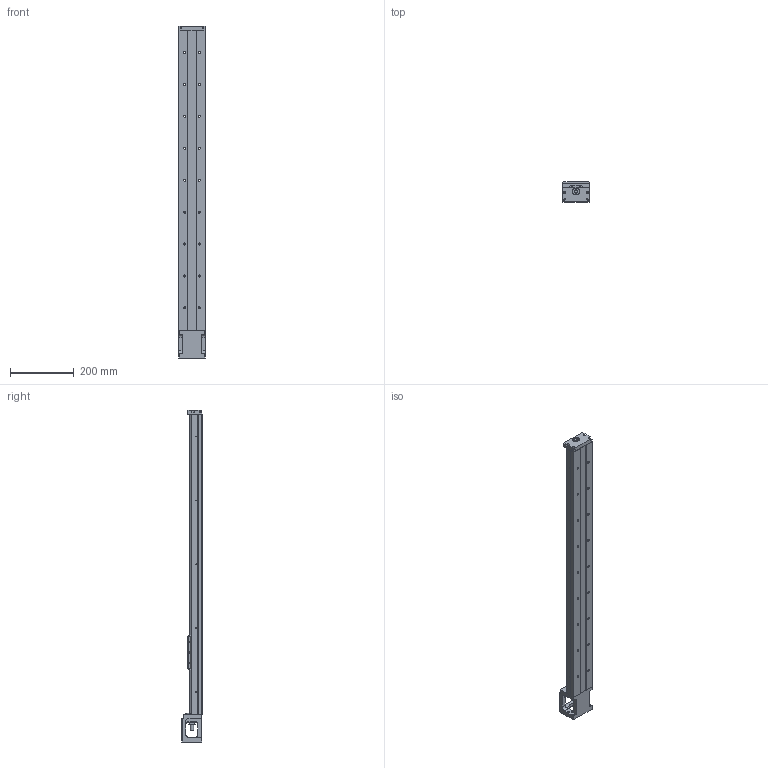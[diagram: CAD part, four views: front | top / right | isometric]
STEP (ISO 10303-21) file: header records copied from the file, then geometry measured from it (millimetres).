
FILE_DESCRIPTION(/* description */ (''),/* implementation_level */ '2;1');
FILE_NAME(/* name */ 'KP46N-940C02-D.stp',/* time_stamp */ '2020-07-03T09:52:38+08:00',/* author */ (''),/* organization */ (''),/* preprocessor_version */ 'ST-DEVELOPER v14',/* originating_system */ 'SIEMENS PLM Software NX 8.0',/* authorisation */ '');
FILE_SCHEMA (('AUTOMOTIVE_DESIGN { 1 0 10303 214 3 1 1 1 }'));
Length unit declared in the file: millimetre
Products named in the file (1): model2
Bounding box: 86 x 64 x 1040 mm (x, y, z)
Volume: 2013518.6 mm3; surface area: 409175.2 mm2
Topology: 5 solids, 21 shells, 676 faces, 1774 edges, 1158 vertices
Faces by surface type: plane 296, cylinder 247, cone 72, bspline 53, torus 8
Full cylindrical faces by diameter (mm): 2.11 x4, 2.15 x10, 2.42 x8, 3 x6, 3.2 x4, 3.3 x6, 3.4 x4, 4.2 x4, 4.5 x8, 5 x10, 6 x8, 6.35 x2, 6.6 x18, 9.6 x1, 10 x4, 11 x18, 12 x1, 14.95 x2, 15 x1, 16 x2, 22 x3, 27.5 x1, 44 x1, 50 x1
Entity records: 33305 total; most frequent: CARTESIAN_POINT 13525, ORIENTED_EDGE 3004, DIRECTION 2945, EDGE_CURVE 1502, AXIS2_PLACEMENT_3D 1098, VERTEX_POINT 1087, EDGE_LOOP 957, LINE 749
